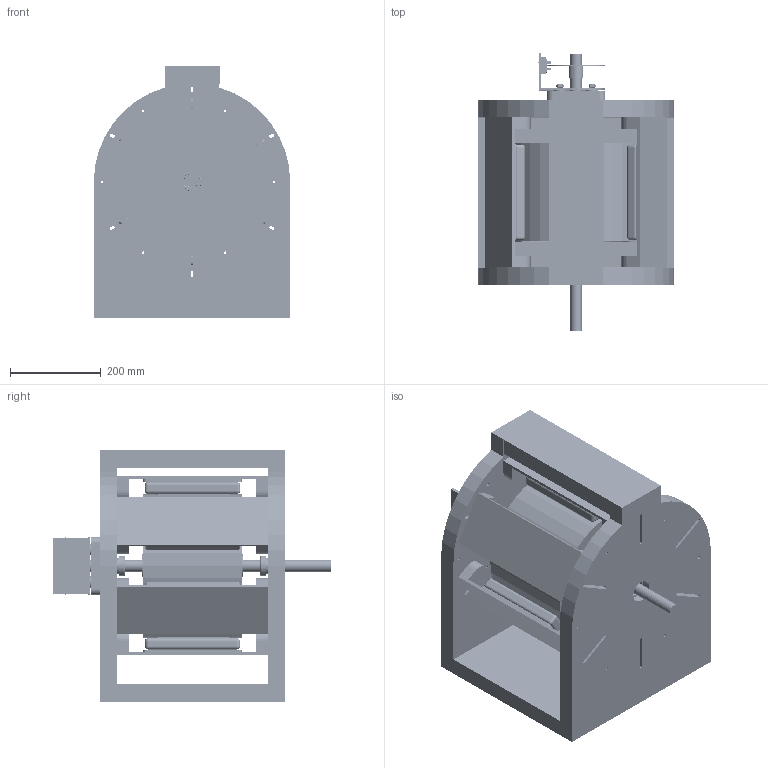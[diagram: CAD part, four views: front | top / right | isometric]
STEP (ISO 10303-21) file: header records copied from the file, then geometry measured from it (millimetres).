
FILE_DESCRIPTION(('HOOPS Exchange Step'),'2;1');
FILE_NAME('C:\Users\edbec\AppData\Local\Packages\Shapr3D.Shapr3D_dvv5p1vgwv6mp\TempState\export\temp_export','2024-05-17T17:25:47+08:00',('edbec'),('Shapr3D Limited'),'HOOPS Exchange 2024.2','Shapr3D','Authorized');
FILE_SCHEMA( ('AUTOMOTIVE_DESIGN { 1 0 10303 214 1 1 1 1 }') );
Length unit declared in the file: millimetre
Products named in the file (31): Bolts Nuts and Washers; Timing Wheel Bracket; Timing Wheel Base Plate; Timing Wheel; Folder 25; Axle; Boca_R16_ZRO2-W_500_FC 01; Boca_R16_ZRO2-W_500_FC 02; Bearings; Clamping Shaft Collar (1); Clamping Shaft Collar (2); Clamping Shaft Collars; Coils; Coil Holder (1); Coil Holder (2); Coil Holder (3); Coil Holder (4); Coil Holder (5); Coil Holder (6); Coil Holder Brackets; Coil Spools; Flange Mount 01; Flange Mount 02; Flange Mounts; Magnets; Rotors; Spacers; Stator Base; Stator Top Horizontal; Stator Vertical Supports; root
Assembly tree (30 placements, depth 3):
  root
    Timing Wheel Bracket
      Bolts Nuts and Washers
    Timing Wheel Base Plate
    Timing Wheel
    Axle
      Folder 25
    Bearings
      Boca_R16_ZRO2-W_500_FC 01
      Boca_R16_ZRO2-W_500_FC 02
    Clamping Shaft Collars
      Clamping Shaft Collar (1)
      Clamping Shaft Collar (2)
    Coils
    Coil Holder Brackets
      Coil Holder (1)
      Coil Holder (2)
      Coil Holder (3)
      Coil Holder (4)
      Coil Holder (5)
      Coil Holder (6)
    Coil Spools
    Flange Mounts
      Flange Mount 01
      Flange Mount 02
    Magnets
    Rotors
    Spacers
    Stator Base
    Stator Top Horizontal
    Stator Vertical Supports
Bounding box: 431.8 x 611.58 x 552.45 mm (x, y, z)
Volume: 42656363.8 mm3; surface area: 6609817.3 mm2
Topology: 108 solids, 114 shells, 2853 faces, 7645 edges, 5115 vertices
Faces by surface type: cylinder 1232, plane 1021, bspline 284, sphere 178, cone 114, torus 24
Full cylindrical faces by diameter (mm): 0.508 x4, 0.787 x1, 1.016 x4, 1.27 x3, 1.397 x2, 3.175 x2, 6.35 x260, 8.93 x2, 9.525 x8, 11.113 x8, 25.4 x23, 31.75 x3, 35.077 x6, 36.805 x2, 38.1 x2, 39.395 x2, 41.123 x6, 50.165 x6, 50.8 x4, 82.042 x2
Entity records: 369035 total; most frequent: CARTESIAN_POINT 300074, ORIENTED_EDGE 15226, DIRECTION 12424, EDGE_CURVE 7613, VERTEX_POINT 5115, AXIS2_PLACEMENT_3D 4475, VECTOR 3474, LINE 3474
